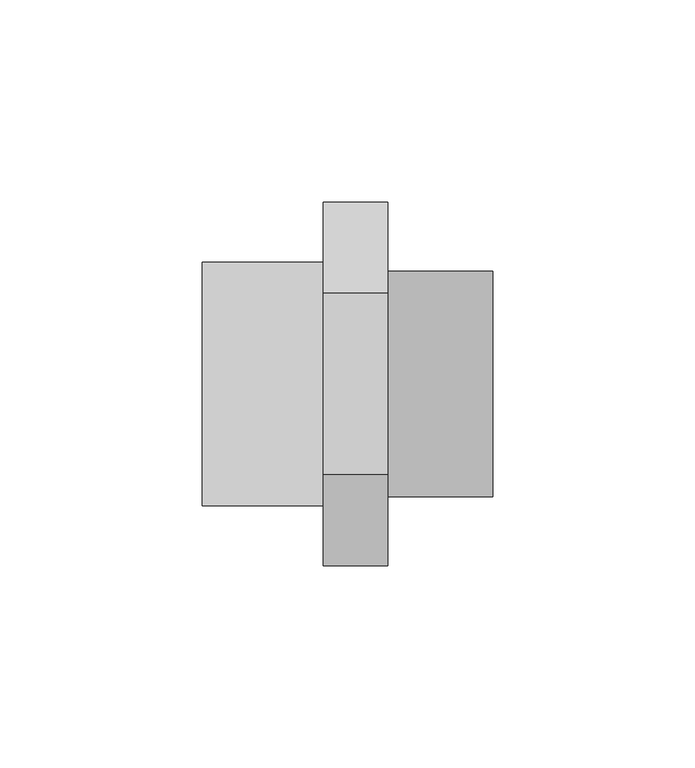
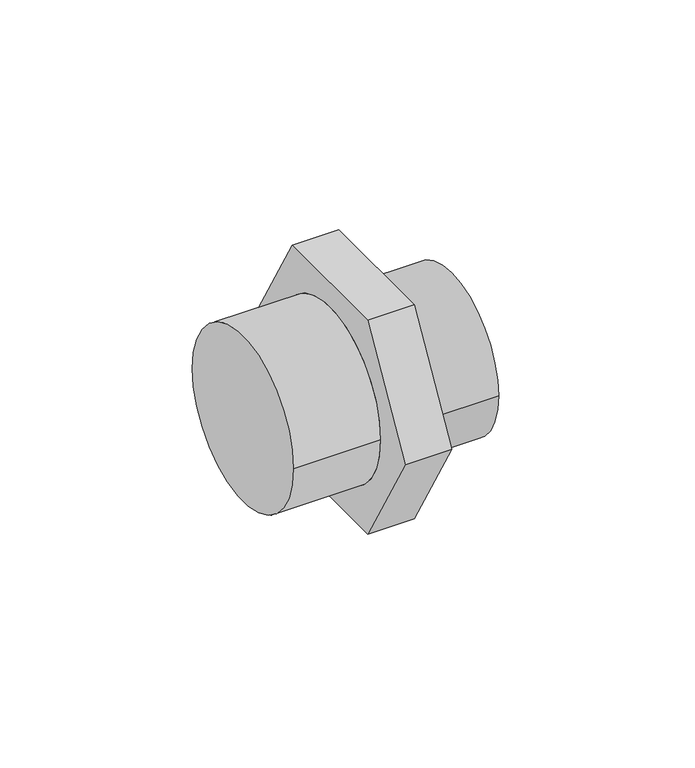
"""IFC4 building model written with IfcOpenShell, lengths in millimetres: pipe fitting geometry, 01011197 : Machones doble rosca reducidas."""

from ifc_helpers import new_model, si_unit, frame, origin, place, context, project, spatial, circle_curve, source, transform, mapped, element, save
from ifc_brep_helpers import plane_surface, cylinder_surface, advanced_brep


def pipe_fitting_c5b334e8(model_context):
    return source(origin(), model_context, "Body", "AdvancedBrep", [
        advanced_brep(
        [(46.0, -22.5166605, 39.0), (46.0, -45.033321, 0.0), (46.0, -22.5166605, -39.0), (46.0, 22.5166605, -39.0), (46.0, 45.033321, 0.0), (46.0, 22.5166605, 39.0), (46.0, -27.94, 0.0), (46.0, 27.94, 0.0), (30.0, -22.5166605, 39.0), (30.0, 22.5166605, 39.0), (30.0, 45.033321, 0.0), (30.0, 22.5166605, -39.0), (30.0, -22.5166605, -39.0), (30.0, -45.033321, 0.0), (30.0, 30.1625, 0.0), (30.0, -30.1625, 0.0), (72.0, -27.94, 0.0), (72.0, 27.94, 0.0), (0.0, 30.1625, 0.0), (0.0, -30.1625, 0.0)],
        [
            (0, 1),
            (1, 2),
            (2, 3),
            (3, 4),
            (4, 5),
            (5, 0),
            (6, 7, circle_curve(frame((46.0, 0.0, 0.0), z_axis=(-1.0, 0.0, 0.0), x_axis=(0.0, 1.0, 0.0)), 27.94)),
            (7, 6, circle_curve(frame((46.0, 0.0, 0.0), z_axis=(-1.0, 0.0, 0.0), x_axis=(0.0, 1.0, 0.0)), 27.94)),
            (8, 9),
            (9, 10),
            (10, 11),
            (11, 12),
            (12, 13),
            (13, 8),
            (14, 15, circle_curve(frame((30.0, 0.0, 0.0), z_axis=(1.0, 0.0, 0.0), x_axis=(0.0, -1.0, 0.0)), 30.1625)),
            (15, 14, circle_curve(frame((30.0, 0.0, 0.0), z_axis=(1.0, 0.0, 0.0), x_axis=(0.0, -1.0, 0.0)), 30.1625)),
            (0, 8),
            (13, 1),
            (12, 2),
            (11, 3),
            (10, 4),
            (9, 5),
            (16, 17, circle_curve(frame((72.0, 0.0, 0.0), z_axis=(1.0, 0.0, 0.0), x_axis=(0.0, 1.0, 0.0)), 27.94)),
            (17, 16, circle_curve(frame((72.0, 0.0, 0.0), z_axis=(1.0, 0.0, 0.0), x_axis=(0.0, 1.0, 0.0)), 27.94)),
            (17, 7),
            (6, 16),
            (18, 19, circle_curve(frame((0.0, 0.0, 0.0), z_axis=(-1.0, 0.0, 0.0), x_axis=(0.0, -1.0, 0.0)), 30.1625)),
            (19, 18, circle_curve(frame((0.0, 0.0, 0.0), z_axis=(-1.0, 0.0, 0.0), x_axis=(0.0, -1.0, 0.0)), 30.1625)),
            (19, 15),
            (14, 18),
        ],
        [
            plane_surface(frame((46.0, -22.5166605, 39.0), z_axis=(1.0, 0.0, 0.0), x_axis=(0.0, -0.5000000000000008, -0.8660254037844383))),
            plane_surface(frame((30.0, -22.5166605, 39.0), z_axis=(-1.0, 0.0, 0.0), x_axis=(0.0, 0.5000000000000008, 0.8660254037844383))),
            plane_surface(frame((46.0, -22.5166605, 39.0), z_axis=(0.0, -0.8660254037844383, 0.5000000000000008), x_axis=(-1.0, 0.0, 0.0))),
            plane_surface(frame((46.0, -45.033321, 0.0), z_axis=(0.0, -0.8660254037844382, -0.500000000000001), x_axis=(-1.0, 0.0, 0.0))),
            plane_surface(frame((46.0, -22.5166605, -39.0), z_axis=(0.0, 0.0, -1.0), x_axis=(-1.0, 0.0, 0.0))),
            plane_surface(frame((46.0, 22.5166605, -39.0), z_axis=(0.0, 0.8660254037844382, -0.500000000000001), x_axis=(-1.0, 0.0, 0.0))),
            plane_surface(frame((46.0, 45.033321, 0.0), z_axis=(0.0, 0.866025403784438, 0.500000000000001), x_axis=(-1.0, 0.0, 0.0))),
            plane_surface(frame((46.0, 22.5166605, 39.0), z_axis=(0.0, 0.0, 1.0), x_axis=(-1.0, 0.0, 0.0))),
            plane_surface(frame((72.0, 0.0, 0.0), z_axis=(1.0, 0.0, 0.0), x_axis=(0.0, 0.0, 1.0))),
            cylinder_surface(frame((46.0, 0.0, 0.0), z_axis=(-1.0, 0.0, 0.0), x_axis=(0.0, 1.0, 0.0)), 27.94),
            plane_surface(frame((0.0, 0.0, 0.0), z_axis=(-1.0, 0.0, 0.0), x_axis=(0.0, 0.0, 1.0))),
            cylinder_surface(frame((30.0, 0.0, 0.0), z_axis=(1.0, 0.0, 0.0), x_axis=(0.0, -1.0, 0.0)), 30.1625),
        ],
        [
            (0, [[1, 2, 3, 4, 5, 6], [7, 8]]),
            (1, [[9, 10, 11, 12, 13, 14], [15, 16]]),
            (2, [[-1, 17, -14, 18]]),
            (3, [[-2, -18, -13, 19]]),
            (4, [[-3, -19, -12, 20]]),
            (5, [[-4, -20, -11, 21]]),
            (6, [[-5, -21, -10, 22]]),
            (7, [[-6, -22, -9, -17]]),
            (8, [[23, 24]]),
            (9, [[-24, 25, -7, 26]]),
            (9, [[-23, -26, -8, -25]]),
            (10, [[27, 28]]),
            (11, [[-28, 29, -15, 30]]),
            (11, [[-27, -30, -16, -29]]),
        ],
    ),
    ])


if __name__ == "__main__":
    model = new_model("IFC4")
    model_context = context("Model", 3, world=origin())
    ifc_project = project(units=[si_unit("LENGTHUNIT", "METRE", prefix="MILLI")], contexts=[model_context])
    site = spatial("IfcSite", under=ifc_project)
    building = spatial("IfcBuilding", under=site)
    placement = place(None, origin())
    pipe_fitting_shape = pipe_fitting_c5b334e8(model_context)
    element("IfcPipeFitting", 1, ObjectType="01011197 : Machones doble rosca reducidas", at=placement, inside=building, context=model_context, shape_type="MappedRepresentation", body=[
        mapped(pipe_fitting_shape, transform((0.0, 0.0, 0.0), x_axis=(1.0, 0.0, 0.0), y_axis=(0.0, 1.0, 0.0), z_axis=(0.0, 0.0, 1.0))),
    ])
    save(model, "model.ifc")
